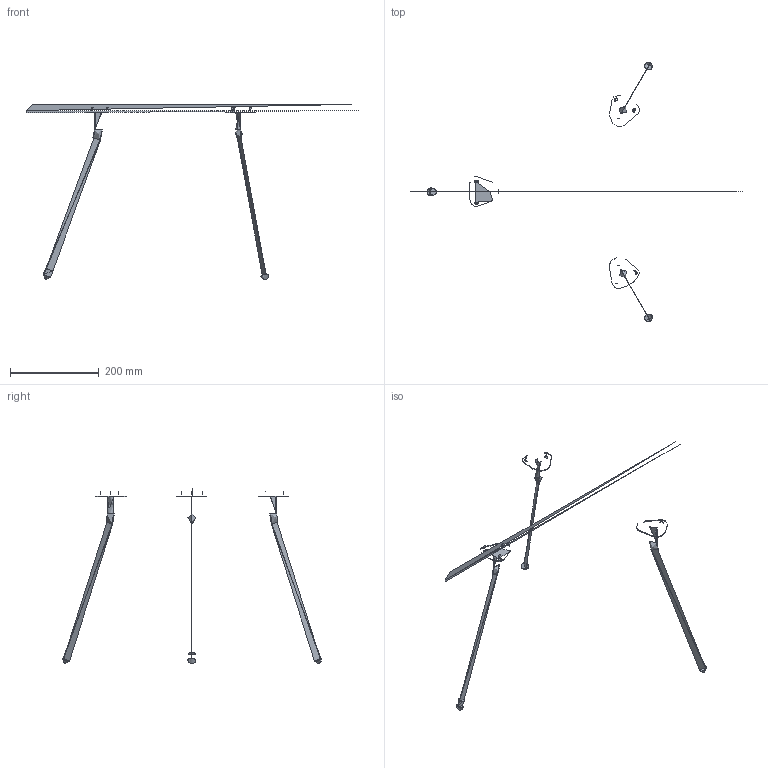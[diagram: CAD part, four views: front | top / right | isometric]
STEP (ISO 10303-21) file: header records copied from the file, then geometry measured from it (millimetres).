
FILE_DESCRIPTION(/* description */ (''),/* implementation_level */ '2;1');
FILE_NAME(/* name */ '110525_Soround ',/* time_stamp */ '2019-09-18T15:36:52+02:00',/* author */ (''),/* organization */ (''),/* preprocessor_version */ 'ST-DEVELOPER v15',/* originating_system */ '',/* authorisation */ '');
FILE_SCHEMA (('AUTOMOTIVE_DESIGN'));
Length unit declared in the file: millimetre
Products named in the file (1): Document
Bounding box: 750 x 585.65 x 395.72 mm (x, y, z)
Surface area: 1032801.8 mm2 (no closed solid volume)
Topology: 0 solids, 178 shells, 178 faces, 1850 edges, 2122 vertices
Faces by surface type: bspline 154, plane 24
Entity records: 22437 total; most frequent: CARTESIAN_POINT 9651, COLOUR_RGB 1591, PRESENTATION_STYLE_ASSIGNMENT 1591, STYLED_ITEM 1591, PRESENTATION_LAYER_ASSIGNMENT 1591, CURVE_STYLE 1413, DIRECTION 589, VECTOR 559
